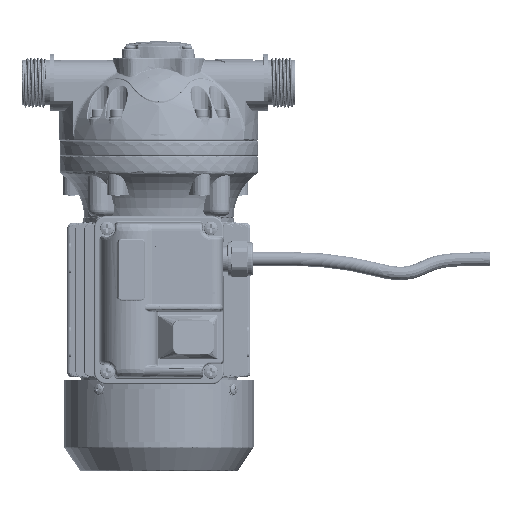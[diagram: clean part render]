
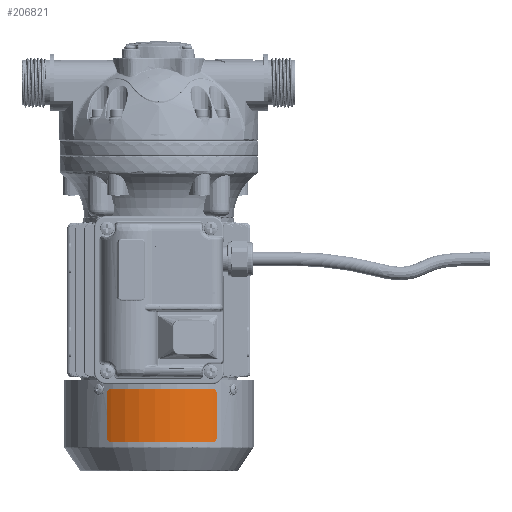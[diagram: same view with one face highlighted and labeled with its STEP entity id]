
A CAD part, front view. The second image highlights one B-rep face of the part: STEP entity #206821.
In plain terms, the highlighted cylindrical face has radius 62.508 mm (diameter 125.016 mm), a partial arc.
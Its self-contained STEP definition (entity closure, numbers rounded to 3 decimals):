
#4987=CYLINDRICAL_SURFACE('',#226208,62.508);
#15029=B_SPLINE_CURVE_WITH_KNOTS('',3,(#785298,#785299,#785300,#785301,
#785302),.UNSPECIFIED.,.F.,.F.,(4,1,4),(-0.785,0.112,
0.785),.UNSPECIFIED.);
#15030=B_SPLINE_CURVE_WITH_KNOTS('',3,(#785306,#785307,#785308,#785309,
#785310),.UNSPECIFIED.,.F.,.F.,(4,1,4),(-0.785,0.112,
0.785),.UNSPECIFIED.);
#15031=B_SPLINE_CURVE_WITH_KNOTS('',3,(#785314,#785315,#785316,#785317,
#785318),.UNSPECIFIED.,.F.,.F.,(4,1,4),(-0.785,0.112,
0.785),.UNSPECIFIED.);
#15032=B_SPLINE_CURVE_WITH_KNOTS('',3,(#785321,#785322,#785323,#785324,
#785325),.UNSPECIFIED.,.F.,.F.,(4,1,4),(-0.785,0.112,
0.785),.UNSPECIFIED.);
#30091=LINE('',#785304,#40197);
#30092=LINE('',#785320,#40198);
#40197=VECTOR('',#274669,10.);
#40198=VECTOR('',#274672,10.);
#53023=FACE_OUTER_BOUND('',#65353,.T.);
#65353=EDGE_LOOP('',(#182144,#182145,#182146,#182147,#182148,#182149,#182150,
#182151));
#74864=CIRCLE('',#226209,62.508);
#74865=CIRCLE('',#226210,62.508);
#93292=VERTEX_POINT('',#785294);
#93293=VERTEX_POINT('',#785295);
#93294=VERTEX_POINT('',#785297);
#93295=VERTEX_POINT('',#785303);
#93296=VERTEX_POINT('',#785305);
#93297=VERTEX_POINT('',#785311);
#93298=VERTEX_POINT('',#785313);
#93299=VERTEX_POINT('',#785319);
#122912=EDGE_CURVE('',#93292,#93293,#74864,.T.);
#122913=EDGE_CURVE('',#93294,#93293,#15029,.T.);
#122914=EDGE_CURVE('',#93294,#93295,#30091,.T.);
#122915=EDGE_CURVE('',#93296,#93295,#15030,.T.);
#122916=EDGE_CURVE('',#93296,#93297,#74865,.T.);
#122917=EDGE_CURVE('',#93298,#93297,#15031,.T.);
#122918=EDGE_CURVE('',#93298,#93299,#30092,.T.);
#122919=EDGE_CURVE('',#93292,#93299,#15032,.T.);
#182144=ORIENTED_EDGE('',*,*,#122912,.T.);
#182145=ORIENTED_EDGE('',*,*,#122913,.F.);
#182146=ORIENTED_EDGE('',*,*,#122914,.T.);
#182147=ORIENTED_EDGE('',*,*,#122915,.F.);
#182148=ORIENTED_EDGE('',*,*,#122916,.T.);
#182149=ORIENTED_EDGE('',*,*,#122917,.F.);
#182150=ORIENTED_EDGE('',*,*,#122918,.T.);
#182151=ORIENTED_EDGE('',*,*,#122919,.F.);
#206821=ADVANCED_FACE('',(#53023),#4987,.T.);
#226208=AXIS2_PLACEMENT_3D('',#785293,#274665,#274666);
#226209=AXIS2_PLACEMENT_3D('',#785296,#274667,#274668);
#226210=AXIS2_PLACEMENT_3D('',#785312,#274670,#274671);
#274665=DIRECTION('center_axis',(0.,1.,0.));
#274666=DIRECTION('ref_axis',(0.,0.,1.));
#274667=DIRECTION('center_axis',(0.,1.,0.));
#274668=DIRECTION('ref_axis',(0.,0.,
1.));
#274669=DIRECTION('',(0.,1.,0.));
#274670=DIRECTION('center_axis',(0.,-1.,0.));
#274671=DIRECTION('ref_axis',(0.,0.,
1.));
#274672=DIRECTION('',(0.,-1.,0.));
#785293=CARTESIAN_POINT('Origin',(0.,0.02,-62.));
#785294=CARTESIAN_POINT('',(-33.378,-17.488,-9.15));
#785295=CARTESIAN_POINT('',(33.378,-17.488,-9.15));
#785296=CARTESIAN_POINT('Origin',(0.,-17.488,-62.));
#785297=CARTESIAN_POINT('',(36.04,-14.313,-10.928));
#785298=CARTESIAN_POINT('Ctrl Pts',(36.04,-14.313,-10.928));
#785299=CARTESIAN_POINT('Ctrl Pts',(36.04,-15.263,
-10.928));
#785300=CARTESIAN_POINT('Ctrl Pts',(35.386,-16.908,
-10.459));
#785301=CARTESIAN_POINT('Ctrl Pts',(33.986,-17.488,-9.533));
#785302=CARTESIAN_POINT('Ctrl Pts',(33.378,-17.488,-9.15));
#785303=CARTESIAN_POINT('',(36.04,14.313,-10.928));
#785304=CARTESIAN_POINT('',(36.04,-17.488,-10.928));
#785305=CARTESIAN_POINT('',(33.378,17.488,-9.15));
#785306=CARTESIAN_POINT('Ctrl Pts',(33.378,17.488,-9.15));
#785307=CARTESIAN_POINT('Ctrl Pts',(34.188,17.488,-9.661));
#785308=CARTESIAN_POINT('Ctrl Pts',(35.565,16.691,-10.586));
#785309=CARTESIAN_POINT('Ctrl Pts',(36.04,15.025,-10.928));
#785310=CARTESIAN_POINT('Ctrl Pts',(36.04,14.313,-10.928));
#785311=CARTESIAN_POINT('',(-33.378,17.488,-9.15));
#785312=CARTESIAN_POINT('Origin',(0.,17.488,-62.));
#785313=CARTESIAN_POINT('',(-36.04,14.313,-10.928));
#785314=CARTESIAN_POINT('Ctrl Pts',(-36.04,14.313,-10.928));
#785315=CARTESIAN_POINT('Ctrl Pts',(-36.04,15.263,
-10.928));
#785316=CARTESIAN_POINT('Ctrl Pts',(-35.386,16.908,
-10.459));
#785317=CARTESIAN_POINT('Ctrl Pts',(-33.986,17.488,-9.533));
#785318=CARTESIAN_POINT('Ctrl Pts',(-33.378,17.488,-9.15));
#785319=CARTESIAN_POINT('',(-36.04,-14.313,-10.928));
#785320=CARTESIAN_POINT('',(-36.04,17.488,-10.928));
#785321=CARTESIAN_POINT('Ctrl Pts',(-33.378,-17.488,-9.15));
#785322=CARTESIAN_POINT('Ctrl Pts',(-34.188,-17.488,-9.661));
#785323=CARTESIAN_POINT('Ctrl Pts',(-35.565,-16.691,
-10.586));
#785324=CARTESIAN_POINT('Ctrl Pts',(-36.04,-15.025,
-10.928));
#785325=CARTESIAN_POINT('Ctrl Pts',(-36.04,-14.313,-10.928));
